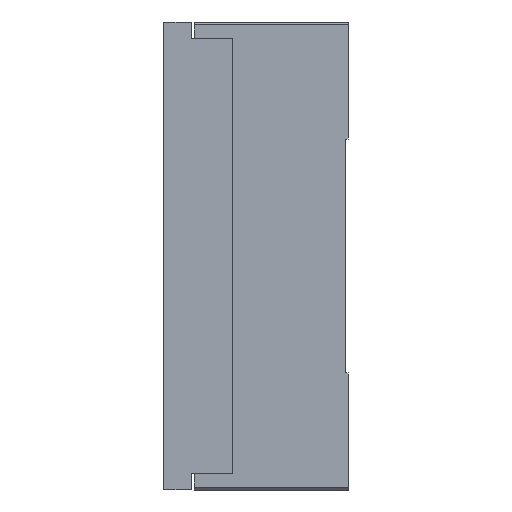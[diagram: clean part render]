
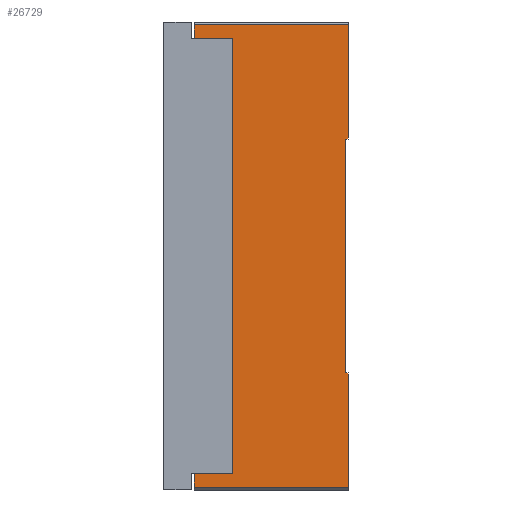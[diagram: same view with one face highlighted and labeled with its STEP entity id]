
A CAD part, left-side view. The second image highlights one B-rep face of the part: STEP entity #26729.
In plain terms, the highlighted planar face has unit normal (-1, 0, 0).
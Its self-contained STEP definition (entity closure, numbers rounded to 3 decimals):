
#311 = ORIENTED_EDGE ( 'NONE', *, *, #42430, .F. ) ;
#979 = VERTEX_POINT ( 'NONE', #10875 ) ;
#1082 = VECTOR ( 'NONE', #39585, 1000. ) ;
#1087 = CARTESIAN_POINT ( 'NONE',  ( -132.5, 42., 69. ) ) ;
#1142 = DIRECTION ( 'NONE',  ( 0., 0., -1. ) ) ;
#1580 = LINE ( 'NONE', #39436, #1082 ) ;
#1672 = CARTESIAN_POINT ( 'NONE',  ( -132.5, 0., 85. ) ) ;
#1854 = VERTEX_POINT ( 'NONE', #26516 ) ;
#3818 = ORIENTED_EDGE ( 'NONE', *, *, #12864, .T. ) ;
#4215 = EDGE_LOOP ( 'NONE', ( #3818, #24598, #19114, #37442, #311, #25152, #10191, #37940, #38363, #11568, #27269, #18154 ) ) ;
#5023 = CARTESIAN_POINT ( 'NONE',  ( -132.5, 42., 79. ) ) ;
#5120 = DIRECTION ( 'NONE',  ( 0., 0., -1. ) ) ;
#5784 = CARTESIAN_POINT ( 'NONE',  ( -132.5, 56., 84. ) ) ;
#5974 = CARTESIAN_POINT ( 'NONE',  ( -132.5, 0., -84. ) ) ;
#6254 = CARTESIAN_POINT ( 'NONE',  ( -132.5, 0., -42.5 ) ) ;
#6307 = VERTEX_POINT ( 'NONE', #30052 ) ;
#7919 = VECTOR ( 'NONE', #10726, 1000. ) ;
#7966 = LINE ( 'NONE', #16385, #7919 ) ;
#8075 = EDGE_CURVE ( 'NONE', #6307, #36945, #7966, .T. ) ;
#8147 = VERTEX_POINT ( 'NONE', #21493 ) ;
#8246 = VECTOR ( 'NONE', #31720, 1000. ) ;
#8970 = VECTOR ( 'NONE', #42842, 1000. ) ;
#9016 = LINE ( 'NONE', #5784, #8970 ) ;
#9124 = LINE ( 'NONE', #18336, #8246 ) ;
#10191 = ORIENTED_EDGE ( 'NONE', *, *, #38830, .F. ) ;
#10726 = DIRECTION ( 'NONE',  ( 0., 1., 0. ) ) ;
#10875 = CARTESIAN_POINT ( 'NONE',  ( -132.5, 1., 42.5 ) ) ;
#11492 = EDGE_CURVE ( 'NONE', #21943, #36945, #32156, .T. ) ;
#11568 = ORIENTED_EDGE ( 'NONE', *, *, #36729, .T. ) ;
#12302 = DIRECTION ( 'NONE',  ( 0., 0., 1. ) ) ;
#12355 = CARTESIAN_POINT ( 'NONE',  ( -132.5, 56., 85. ) ) ;
#12681 = VERTEX_POINT ( 'NONE', #6254 ) ;
#12850 = DIRECTION ( 'NONE',  ( 0., 0., -1. ) ) ;
#12864 = EDGE_CURVE ( 'NONE', #18805, #6307, #25780, .T. ) ;
#13636 = DIRECTION ( 'NONE',  ( 0., -1., 0. ) ) ;
#13665 = DIRECTION ( 'NONE',  ( 0., 0., 1. ) ) ;
#13806 = DIRECTION ( 'NONE',  ( -1., 0., 0. ) ) ;
#13954 = EDGE_CURVE ( 'NONE', #979, #36858, #19509, .T. ) ;
#14151 = PLANE ( 'NONE',  #30734 ) ;
#14385 = LINE ( 'NONE', #29469, #14508 ) ;
#14508 = VECTOR ( 'NONE', #29453, 1000. ) ;
#14766 = CARTESIAN_POINT ( 'NONE',  ( -132.5, 56., 85. ) ) ;
#14818 = VECTOR ( 'NONE', #31233, 1000. ) ;
#15218 = VERTEX_POINT ( 'NONE', #25034 ) ;
#15281 = LINE ( 'NONE', #31298, #14818 ) ;
#16385 = CARTESIAN_POINT ( 'NONE',  ( -132.5, 56., -79. ) ) ;
#17327 = EDGE_CURVE ( 'NONE', #20959, #18805, #1580, .T. ) ;
#18154 = ORIENTED_EDGE ( 'NONE', *, *, #17327, .T. ) ;
#18336 = CARTESIAN_POINT ( 'NONE',  ( -132.5, 0., 85. ) ) ;
#18805 = VERTEX_POINT ( 'NONE', #5023 ) ;
#19114 = ORIENTED_EDGE ( 'NONE', *, *, #11492, .F. ) ;
#19465 = VECTOR ( 'NONE', #13636, 1000. ) ;
#19509 = LINE ( 'NONE', #34882, #19465 ) ;
#20959 = VERTEX_POINT ( 'NONE', #34289 ) ;
#21493 = CARTESIAN_POINT ( 'NONE',  ( -132.5, 0., 84. ) ) ;
#21943 = VERTEX_POINT ( 'NONE', #35557 ) ;
#23386 = EDGE_CURVE ( 'NONE', #21943, #25266, #15281, .T. ) ;
#23499 = EDGE_CURVE ( 'NONE', #20959, #1854, #14385, .T. ) ;
#24598 = ORIENTED_EDGE ( 'NONE', *, *, #8075, .T. ) ;
#25034 = CARTESIAN_POINT ( 'NONE',  ( -132.5, 1., -42.5 ) ) ;
#25152 = ORIENTED_EDGE ( 'NONE', *, *, #28641, .F. ) ;
#25266 = VERTEX_POINT ( 'NONE', #5974 ) ;
#25726 = VECTOR ( 'NONE', #1142, 1000. ) ;
#25780 = LINE ( 'NONE', #1087, #25726 ) ;
#26516 = CARTESIAN_POINT ( 'NONE',  ( -132.5, 56., 84. ) ) ;
#26729 = ADVANCED_FACE ( 'NONE', ( #41368 ), #14151, .T. ) ;
#27269 = ORIENTED_EDGE ( 'NONE', *, *, #23499, .F. ) ;
#28641 = EDGE_CURVE ( 'NONE', #15218, #12681, #29844, .T. ) ;
#29453 = DIRECTION ( 'NONE',  ( 0., 0., 1. ) ) ;
#29469 = CARTESIAN_POINT ( 'NONE',  ( -132.5, 56., 85. ) ) ;
#29716 = VECTOR ( 'NONE', #39713, 1000. ) ;
#29844 = LINE ( 'NONE', #38941, #29716 ) ;
#30052 = CARTESIAN_POINT ( 'NONE',  ( -132.5, 42., -79. ) ) ;
#30138 = CARTESIAN_POINT ( 'NONE',  ( -132.5, 56., -79. ) ) ;
#30734 = AXIS2_PLACEMENT_3D ( 'NONE', #14766, #13806, #13665 ) ;
#31233 = DIRECTION ( 'NONE',  ( 0., -1., 0. ) ) ;
#31298 = CARTESIAN_POINT ( 'NONE',  ( -132.5, 0., -84. ) ) ;
#31720 = DIRECTION ( 'NONE',  ( 0., 0., -1. ) ) ;
#32156 = LINE ( 'NONE', #12355, #32308 ) ;
#32308 = VECTOR ( 'NONE', #12302, 1000. ) ;
#32893 = VECTOR ( 'NONE', #5120, 1000. ) ;
#32931 = LINE ( 'NONE', #1672, #32893 ) ;
#33187 = CARTESIAN_POINT ( 'NONE',  ( -132.5, 1., -42.5 ) ) ;
#34289 = CARTESIAN_POINT ( 'NONE',  ( -132.5, 56., 79. ) ) ;
#34712 = VECTOR ( 'NONE', #12850, 1000. ) ;
#34725 = EDGE_CURVE ( 'NONE', #8147, #36858, #32931, .T. ) ;
#34795 = LINE ( 'NONE', #33187, #34712 ) ;
#34882 = CARTESIAN_POINT ( 'NONE',  ( -132.5, 1., 42.5 ) ) ;
#35557 = CARTESIAN_POINT ( 'NONE',  ( -132.5, 56., -84. ) ) ;
#36147 = CARTESIAN_POINT ( 'NONE',  ( -132.5, 0., 42.5 ) ) ;
#36729 = EDGE_CURVE ( 'NONE', #8147, #1854, #9016, .T. ) ;
#36858 = VERTEX_POINT ( 'NONE', #36147 ) ;
#36945 = VERTEX_POINT ( 'NONE', #30138 ) ;
#37442 = ORIENTED_EDGE ( 'NONE', *, *, #23386, .T. ) ;
#37940 = ORIENTED_EDGE ( 'NONE', *, *, #13954, .T. ) ;
#38363 = ORIENTED_EDGE ( 'NONE', *, *, #34725, .F. ) ;
#38830 = EDGE_CURVE ( 'NONE', #979, #15218, #34795, .T. ) ;
#38941 = CARTESIAN_POINT ( 'NONE',  ( -132.5, 1., -42.5 ) ) ;
#39436 = CARTESIAN_POINT ( 'NONE',  ( -132.5, 56., 79. ) ) ;
#39585 = DIRECTION ( 'NONE',  ( 0., -1., 0. ) ) ;
#39713 = DIRECTION ( 'NONE',  ( 0., -1., 0. ) ) ;
#41368 = FACE_OUTER_BOUND ( 'NONE', #4215, .T. ) ;
#42430 = EDGE_CURVE ( 'NONE', #12681, #25266, #9124, .T. ) ;
#42842 = DIRECTION ( 'NONE',  ( 0., 1., 0. ) ) ;
